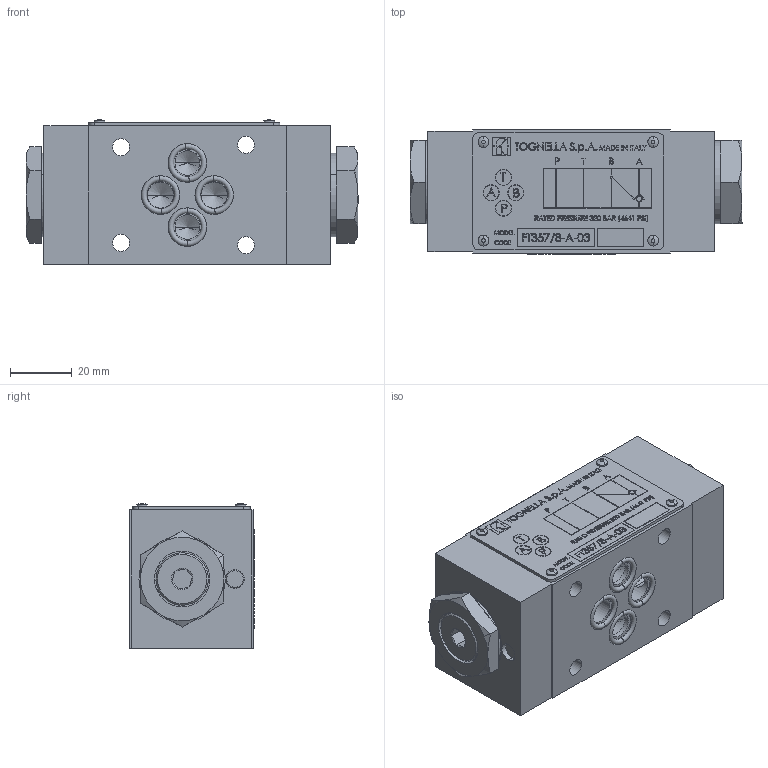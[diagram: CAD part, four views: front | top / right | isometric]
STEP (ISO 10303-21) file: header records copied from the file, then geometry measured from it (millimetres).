
FILE_DESCRIPTION (( 'STEP AP214' ), '1' );
FILE_NAME ('FT357-8-A-03.STEP', '2014-06-17T05:40:34', ( '' ), ( '' ), 'SwSTEP 2.0', 'SolidWorks 2014', '' );
FILE_SCHEMA (( 'AUTOMOTIVE_DESIGN' ));
Length unit declared in the file: millimetre
Products named in the file (17): 357-8-A010000; OR2037; OR3068; RivettoTarga; 357-8-A015000; FT245_6-14; 2257-6-009001; 280-5-021000; 245-6-001000; OR2043; AnelloFT267_2-38; OR2050; 257-5-008001; 357-8-AB001000; FT357-8-A-03; HK060CK55-111; 357-8-AB019000
Assembly tree (25 placements, depth 3):
  FT357-8-A-03
    357-8-AB001000
    FT245_6-14
      257-5-008001
      OR2050
      AnelloFT267_2-38  x2
      OR2043
      245-6-001000
      280-5-021000
      2257-6-009001
    357-8-A015000
    RivettoTarga  x4
    OR3068  x2
    OR2037  x4
    357-8-A010000
    357-8-AB019000
    HK060CK55-111  x2
Bounding box: 107.6 x 40.38 x 46.96 mm (x, y, z)
Volume: 159997.4 mm3; surface area: 48970 mm2
Topology: 24 solids, 24 shells, 1795 faces, 4501 edges, 2902 vertices
Faces by surface type: plane 959, bspline 360, cylinder 268, cone 158, torus 50
Entity records: 86975 total; most frequent: CARTESIAN_POINT 34518, ORIENTED_EDGE 8638, DIRECTION 6829, EDGE_CURVE 4319, LINE 2861, VECTOR 2861, VERTEX_POINT 2813, AXIS2_PLACEMENT_3D 1984
